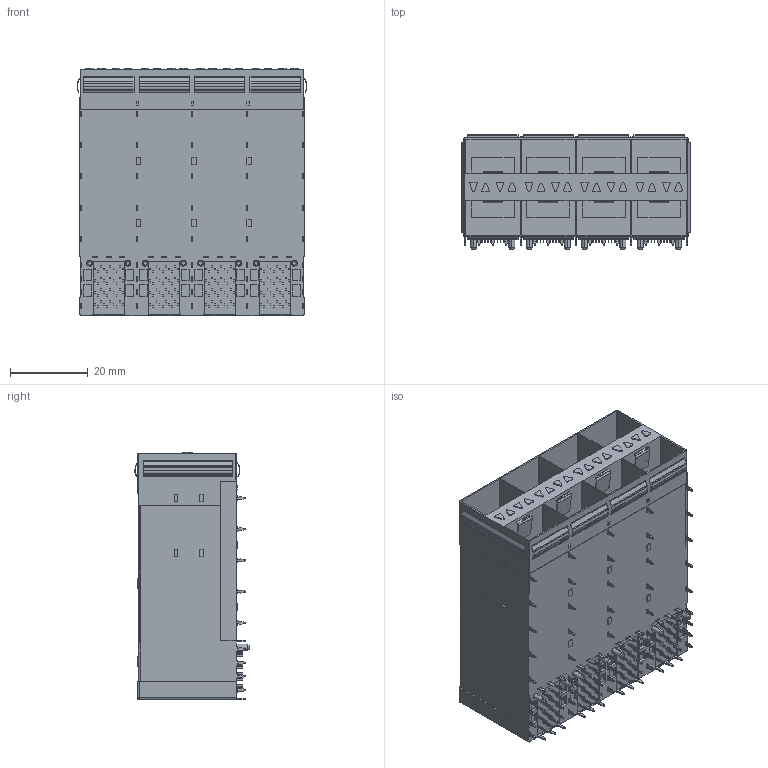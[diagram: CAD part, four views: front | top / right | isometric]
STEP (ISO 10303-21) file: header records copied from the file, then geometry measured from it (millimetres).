
FILE_DESCRIPTION (( 'STEP AP214' ), '1' );
FILE_NAME ('SFP28 2X4 有月牙 内外灯(下上下上) 3D.STEP', '2025-06-13T00:07:36', ( '桑三博客' ), ( 'Www.SangSan.Cn' ), 'SwSTEP 2.0', 'SolidWorks 2018', '' );
FILE_SCHEMA (( 'AUTOMOTIVE_DESIGN' ));
Length unit declared in the file: millimetre
Products named in the file (1): SFP28 2X4 有月牙 内外灯(下上下上)  3D
Bounding box: 59.06 x 29.38 x 63.5 mm (x, y, z)
Volume: 46757.9 mm3; surface area: 34480.5 mm2
Topology: 1 solids, 1 shells, 3072 faces, 8563 edges, 5786 vertices
Faces by surface type: plane 2106, cylinder 948, cone 16, sphere 2
Entity records: 98655 total; most frequent: CARTESIAN_POINT 17420, ORIENTED_EDGE 17122, DIRECTION 16623, EDGE_CURVE 8561, LINE 6645, VECTOR 6645, VERTEX_POINT 5786, AXIS2_PLACEMENT_3D 4989
